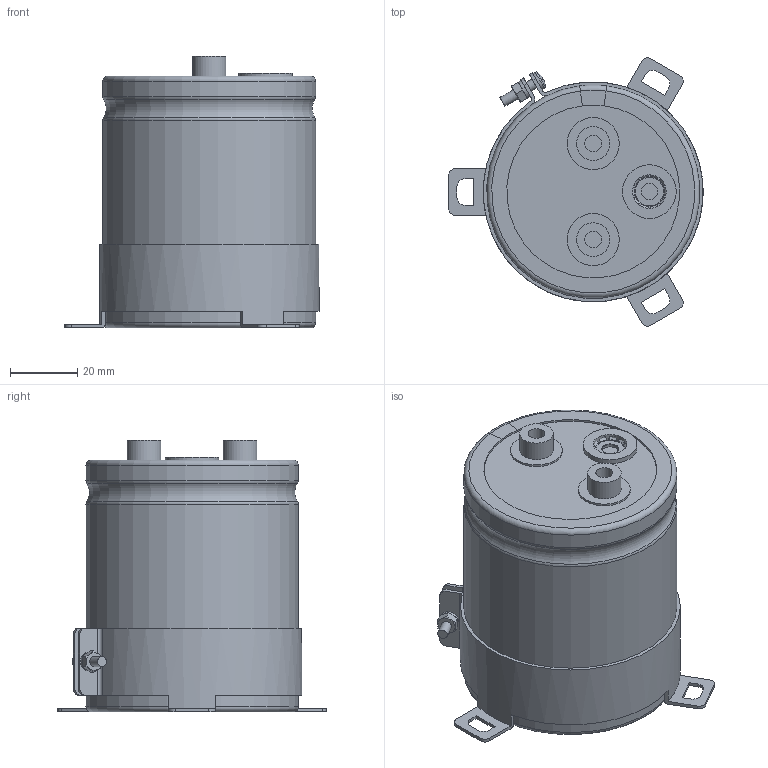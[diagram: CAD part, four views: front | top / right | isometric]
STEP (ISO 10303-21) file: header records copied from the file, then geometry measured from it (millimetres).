
FILE_DESCRIPTION(/* description */ (''),/* implementation_level */ '2;1');
FILE_NAME(/* name */ '63.5x75_Screw.stp',/* time_stamp */ '2017-09-15T17:55:34+09:00',/* author */ (''),/* organization */ (''),/* preprocessor_version */ 'ST-DEVELOPER v16',/* originating_system */ 'SIEMENS PLM Software NX 11.0',/* authorisation */ '');
FILE_SCHEMA (('AUTOMOTIVE_DESIGN { 1 0 10303 214 3 1 1 1 }'));
Length unit declared in the file: millimetre
Products named in the file (1): 63.5x75_Screw
Bounding box: 75.75 x 80.01 x 81 mm (x, y, z)
Volume: 239762.1 mm3; surface area: 66036.3 mm2
Topology: 9 solids, 9 shells, 259 faces, 644 edges, 415 vertices
Faces by surface type: plane 112, cylinder 66, torus 49, cone 31, sphere 1
Full cylindrical faces by diameter (mm): 3 x5, 5 x6, 5.5 x2, 10 x4, 15.5 x2, 16 x1, 62.3 x2
Entity records: 8411 total; most frequent: CARTESIAN_POINT 2059, DIRECTION 1296, ORIENTED_EDGE 1214, EDGE_CURVE 607, AXIS2_PLACEMENT_3D 541, VERTEX_POINT 408, EDGE_LOOP 317, CIRCLE 281
